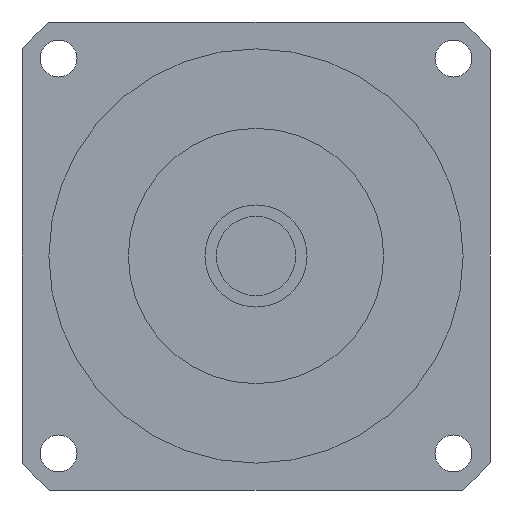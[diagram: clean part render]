
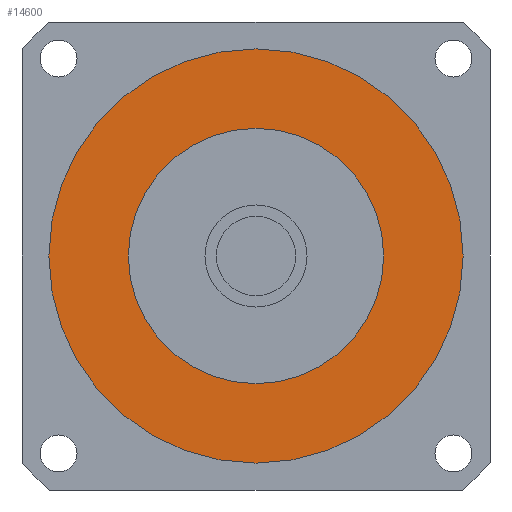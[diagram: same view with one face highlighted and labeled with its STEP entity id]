
A CAD part, left-side view. The second image highlights one B-rep face of the part: STEP entity #14600.
In plain terms, the highlighted planar face has unit normal (-1, 0, 0) as drawn and (0, 0, -1) by its records, which use the part's own axes.
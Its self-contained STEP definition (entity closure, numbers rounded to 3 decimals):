
#14060=CARTESIAN_POINT('',(36.51,0.,-39.2));
#14070=VERTEX_POINT('',#14060);
#14160=CARTESIAN_POINT('',(-36.51,0.,-39.2));
#14170=VERTEX_POINT('',#14160);
#14200=CARTESIAN_POINT('',(0.,0.,
-39.2));
#14210=DIRECTION('',(0.,0.,1.));
#14220=DIRECTION('',(0.,1.,0.));
#14230=AXIS2_PLACEMENT_3D('',#14200,#14210,#14220);
#14240=CIRCLE('',#14230,36.51);
#14250=CARTESIAN_POINT('',(0.,36.51,-39.2));
#14260=VERTEX_POINT('',#14250);
#14270=EDGE_CURVE('',#14260,#14170,#14240,.T.);
#14290=EDGE_CURVE('',#14070,#14260,#14240,.T.);
#14340=CARTESIAN_POINT('',(0.,0.,
-39.2));
#14350=DIRECTION('',(0.,0.,1.));
#14360=DIRECTION('',(-1.,0.,0.));
#14370=AXIS2_PLACEMENT_3D('',#14340,#14350,#14360);
#14380=PLANE('',#14370);
#14390=CARTESIAN_POINT('',(0.,0.,
-39.2));
#14400=DIRECTION('',(0.,0.,1.));
#14410=DIRECTION('',(1.,0.,0.));
#14420=AXIS2_PLACEMENT_3D('',#14390,#14400,#14410);
#14430=CIRCLE('',#14420,22.5);
#14440=CARTESIAN_POINT('',(22.5,0.,-39.2));
#14450=VERTEX_POINT('',#14440);
#14460=CARTESIAN_POINT('',(-22.5,0.,-39.2));
#14470=VERTEX_POINT('',#14460);
#14480=EDGE_CURVE('',#14450,#14470,#14430,.T.);
#14490=ORIENTED_EDGE('',*,*,#14480,.T.);
#14500=EDGE_CURVE('',#14470,#14450,#14430,.T.);
#14510=ORIENTED_EDGE('',*,*,#14500,.T.);
#14520=EDGE_LOOP('',(#14510,#14490));
#14530=FACE_BOUND('',#14520,.T.);
#14540=ORIENTED_EDGE('',*,*,#14270,.F.);
#14550=EDGE_CURVE('',#14170,#14070,#14240,.T.);
#14560=ORIENTED_EDGE('',*,*,#14550,.F.);
#14570=ORIENTED_EDGE('',*,*,#14290,.F.);
#14580=EDGE_LOOP('',(#14570,#14560,#14540));
#14590=FACE_OUTER_BOUND('',#14580,.T.);
#14600=ADVANCED_FACE('',(#14530,#14590),#14380,.F.);
